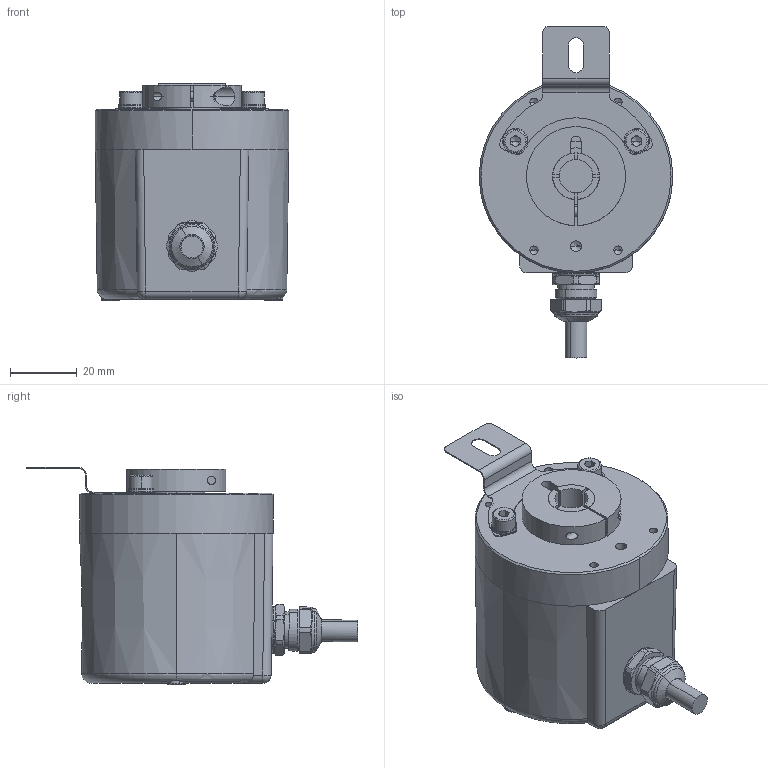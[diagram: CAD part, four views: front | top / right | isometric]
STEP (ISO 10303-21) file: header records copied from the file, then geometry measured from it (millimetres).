
FILE_DESCRIPTION (( 'STEP AP203' ), '1' );
FILE_NAME ('E58HS-ANA-241#-##-NC.STEP', '2023-07-13T07:33:21', ( '' ), ( '' ), 'SwSTEP 2.0', 'SolidWorks 2021', '' );
FILE_SCHEMA (( 'CONFIG_CONTROL_DESIGN' ));
Length unit declared in the file: millimetre
Products named in the file (1): E58HS-ANA-241#-##-NC
Bounding box: 58 x 99.44 x 65.1 mm (x, y, z)
Volume: 154379.4 mm3; surface area: 25032.7 mm2
Topology: 10 solids, 20 shells, 538 faces, 1279 edges, 779 vertices
Faces by surface type: plane 267, cylinder 151, cone 73, torus 45, sphere 2
Entity records: 15679 total; most frequent: CARTESIAN_POINT 3155, DIRECTION 2692, ORIENTED_EDGE 2486, EDGE_CURVE 1243, AXIS2_PLACEMENT_3D 980, VERTEX_POINT 779, VECTOR 732, LINE 732
